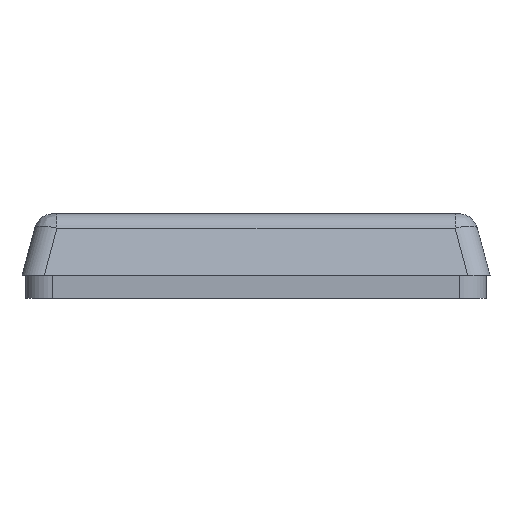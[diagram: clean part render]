
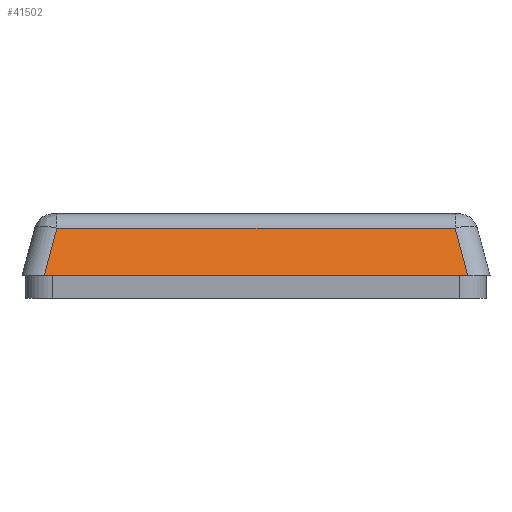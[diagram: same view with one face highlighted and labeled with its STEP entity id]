
A CAD part, left-side view. The second image highlights one B-rep face of the part: STEP entity #41502.
In plain terms, the highlighted planar face has unit normal (-0.966, 0, 0.259).
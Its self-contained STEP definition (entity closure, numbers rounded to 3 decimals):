
#1869=PLANE('',#44939);
#5128=LINE('',#71261,#8748);
#5137=LINE('',#71348,#8757);
#5139=LINE('',#71381,#8759);
#5140=LINE('',#71383,#8760);
#8748=VECTOR('',#54644,10.);
#8757=VECTOR('',#54685,10.);
#8759=VECTOR('',#54697,10.);
#8760=VECTOR('',#54700,10.);
#12338=FACE_OUTER_BOUND('',#15006,.T.);
#15006=EDGE_LOOP('',(#36831,#36832,#36833,#36834));
#20655=VERTEX_POINT('',#71258);
#20656=VERTEX_POINT('',#71260);
#20667=VERTEX_POINT('',#71341);
#20669=VERTEX_POINT('',#71377);
#26207=EDGE_CURVE('',#20655,#20656,#5128,.T.);
#26228=EDGE_CURVE('',#20667,#20655,#5137,.T.);
#26232=EDGE_CURVE('',#20656,#20669,#5139,.T.);
#26233=EDGE_CURVE('',#20669,#20667,#5140,.T.);
#36831=ORIENTED_EDGE('',*,*,#26228,.F.);
#36832=ORIENTED_EDGE('',*,*,#26233,.F.);
#36833=ORIENTED_EDGE('',*,*,#26232,.F.);
#36834=ORIENTED_EDGE('',*,*,#26207,.F.);
#41502=ADVANCED_FACE('',(#12338),#1869,.F.);
#44939=AXIS2_PLACEMENT_3D('',#71384,#54701,#54702);
#54644=DIRECTION('',(0.,1.,0.));
#54685=DIRECTION('',(-0.251,-0.251,-0.935));
#54697=DIRECTION('',(0.251,-0.251,0.935));
#54700=DIRECTION('',(0.,-1.,0.));
#54701=DIRECTION('center_axis',(0.966,0.,-0.259));
#54702=DIRECTION('ref_axis',(-0.259,0.,-0.966));
#71258=CARTESIAN_POINT('',(-61.5,-27.602,-4.));
#71260=CARTESIAN_POINT('',(-61.5,27.602,-4.));
#71261=CARTESIAN_POINT('',(-61.5,15.25,-4.));
#71341=CARTESIAN_POINT('',(-59.853,-25.955,2.147));
#71348=CARTESIAN_POINT('',(-58.223,-24.326,8.228));
#71377=CARTESIAN_POINT('',(-59.853,25.955,2.147));
#71381=CARTESIAN_POINT('',(-56.277,22.379,15.492));
#71383=CARTESIAN_POINT('',(-59.853,30.5,2.147));
#71384=CARTESIAN_POINT('Origin',(-59.853,30.5,2.147));
